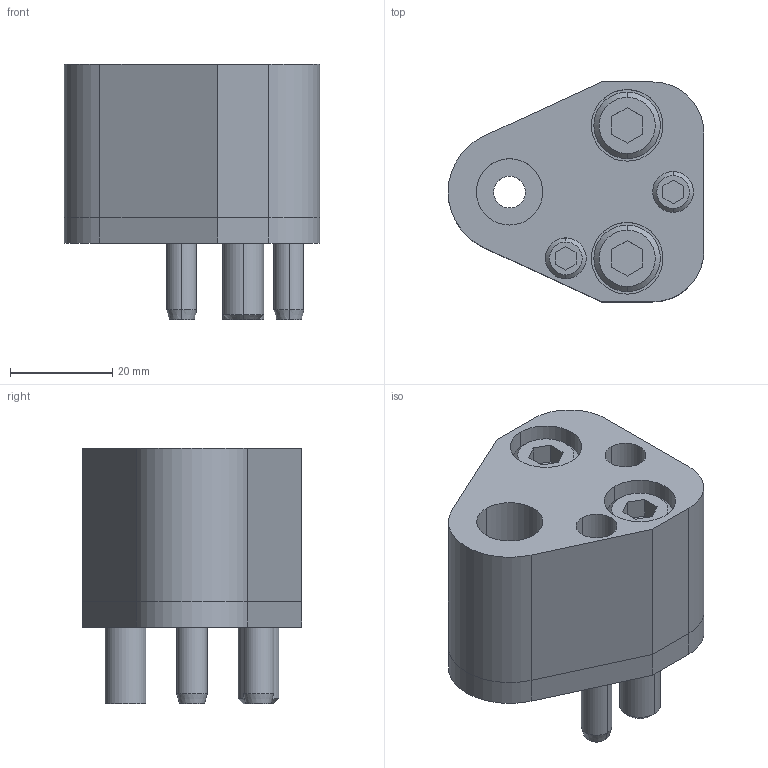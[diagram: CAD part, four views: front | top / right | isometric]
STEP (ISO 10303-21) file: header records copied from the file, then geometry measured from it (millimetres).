
FILE_DESCRIPTION(/* description */ (''),/* implementation_level */ '2;1');
FILE_NAME(/* name */ '3d_fp-ap13_02887_r00.stp',/* time_stamp */ '2011-01-10T14:15:36+09:00',/* author */ ('MISUMI'),/* organization */ (''),/* preprocessor_version */ 'ST-DEVELOPER v11',/* originating_system */ 'UGS - NX 5.0',/* authorisation */ '');
FILE_SCHEMA (('CONFIG_CONTROL_DESIGN'));
Length unit declared in the file: millimetre
Products named in the file (1): 3d_fp-ap13_02887_r00
Bounding box: 50 x 43 x 50 mm (x, y, z)
Volume: 52071.4 mm3; surface area: 21578.7 mm2
Topology: 8 solids, 8 shells, 153 faces, 342 edges, 220 vertices
Faces by surface type: plane 67, cylinder 62, cone 24
Entity records: 4424 total; most frequent: DIRECTION 794, CARTESIAN_POINT 764, ORIENTED_EDGE 684, EDGE_CURVE 342, AXIS2_PLACEMENT_3D 302, VERTEX_POINT 220, LINE 190, VECTOR 190
